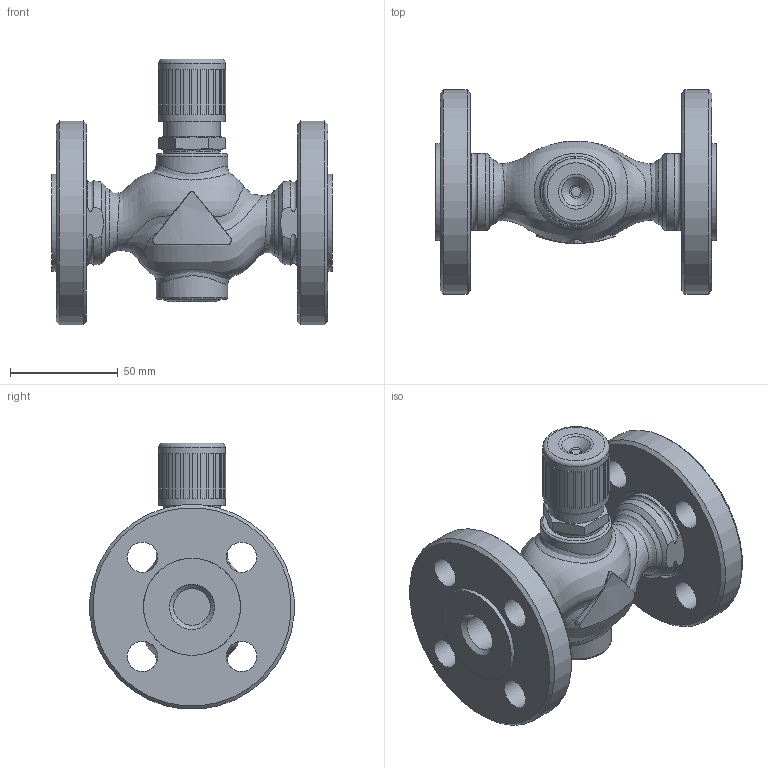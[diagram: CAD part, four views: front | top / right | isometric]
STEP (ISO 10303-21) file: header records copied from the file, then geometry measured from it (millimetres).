
FILE_DESCRIPTION(/* description */ (''),/* implementation_level */ '2;1');
FILE_NAME(/* name */ 'rv111r_dn15_2_F.stp',/* time_stamp */ '2012-02-21T11:13:07+01:00',/* author */ ('KLIMES'),/* organization */ ('LDM'),/* preprocessor_version */ 'ST-DEVELOPER v11',/* originating_system */ 'SIEMENS PLM Software NX 7.0',/* authorisation */ '');
FILE_SCHEMA (('CONFIG_CONTROL_DESIGN'));
Length unit declared in the file: millimetre
Products named in the file (1): klim56BEqbgh
Bounding box: 130 x 94.64 x 123.27 mm (x, y, z)
Volume: 349991.1 mm3; surface area: 71893.3 mm2
Topology: 4 solids, 4 shells, 291 faces, 677 edges, 435 vertices
Faces by surface type: plane 140, cone 63, cylinder 41, bspline 27, torus 20
Full cylindrical faces by diameter (mm): 8 x1, 14 x8, 17 x2, 23.4 x1, 24.117 x1, 26 x1, 26.5 x2, 30.291 x2, 30.8 x1, 33 x2, 33.249 x2, 33.5 x2, 45 x2, 95 x2
Entity records: 13615 total; most frequent: CARTESIAN_POINT 7396, DIRECTION 1264, ORIENTED_EDGE 1150, EDGE_CURVE 575, AXIS2_PLACEMENT_3D 520, EDGE_LOOP 425, VERTEX_POINT 406, ADVANCED_FACE 291
